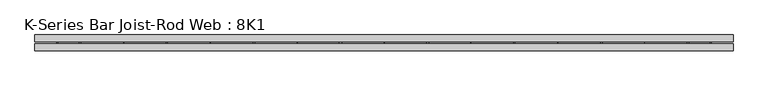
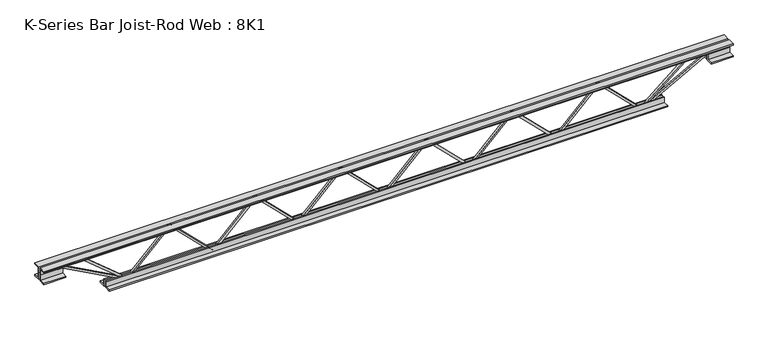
"""IFC4 building model written with IfcOpenShell, lengths in millimetres: beam geometry, K-Series Bar Joist-Rod Web : 8K1."""

from ifc_helpers import new_model, si_unit, frame, origin, place, context, project, spatial, polyline, outline, extrude, source, transform, mapped, element, save


def k_series_bar_joist_rod_web_8k1_e624906a(model_context):
    return source(origin(), model_context, "Body", "SweptSolid", [
        extrude(outline(polyline([(-90.4875, 398.8522061), (-100.0125, 398.8522061), (-100.0125, 403.981188), (90.4875, 597.057291), (90.4875, 599.4993272), (-100.0125, 792.5754302), (-100.0125, 797.7044121), (-90.4875, 797.7044121), (-90.4875, 796.483394), (100.0125, 603.407291), (100.0125, 593.1493272), (-90.4875, 400.0732241), (-90.4875, 398.8522061)])), frame((0.0, -4.7625, 0.0), z_axis=(0.0, 1.0, 0.0), x_axis=(0.0, 0.0, 1.0)), (0.0, 0.0, 1.0), 9.525),
        extrude(outline(polyline([(-90.4875, 0.0), (-100.0125, 0.0), (-100.0125, 5.1289819), (90.4875, 198.205085), (90.4875, 200.6471211), (-100.0125, 393.7232241), (-100.0125, 398.8522061), (-90.4875, 398.8522061), (-90.4875, 397.631188), (100.0125, 204.555085), (100.0125, 194.2971211), (-90.4875, 1.2210181), (-90.4875, 0.0)])), frame((0.0, -4.7625, 0.0), z_axis=(0.0, 1.0, 0.0), x_axis=(0.0, 0.0, 1.0)), (0.0, 0.0, 1.0), 9.525),
        extrude(outline(polyline([(-90.4875, -398.8522061), (-100.0125, -398.8522061), (-100.0125, -393.7232241), (90.4875, -200.6471211), (90.4875, -198.205085), (-100.0125, -5.1289819), (-100.0125, 0.0), (-90.4875, 0.0), (-90.4875, -1.2210181), (100.0125, -194.2971211), (100.0125, -204.555085), (-90.4875, -397.631188), (-90.4875, -398.8522061)])), frame((0.0, -4.7625, 0.0), z_axis=(0.0, 1.0, 0.0), x_axis=(0.0, 0.0, 1.0)), (0.0, 0.0, 1.0), 9.525),
        extrude(outline(polyline([(-90.4875, -797.7044121), (-100.0125, -797.7044121), (-100.0125, -792.5754302), (90.4875, -599.4993272), (90.4875, -597.057291), (-100.0125, -403.981188), (-100.0125, -398.8522061), (-90.4875, -398.8522061), (-90.4875, -400.0732241), (100.0125, -593.1493272), (100.0125, -603.407291), (-90.4875, -796.483394), (-90.4875, -797.7044121)])), frame((0.0, -4.7625, 0.0), z_axis=(0.0, 1.0, 0.0), x_axis=(0.0, 0.0, 1.0)), (0.0, 0.0, 1.0), 9.525),
        extrude(outline(polyline([(-90.4875, 797.7044121), (-100.0125, 797.7044121), (-100.0125, 802.833394), (90.4875, 995.9094971), (90.4875, 998.3515332), (-100.0125, 1191.4276362), (-100.0125, 1196.5566182), (-90.4875, 1196.5566182), (-90.4875, 1195.3356001), (100.0125, 1002.2594971), (100.0125, 992.0015332), (-90.4875, 798.9254302), (-90.4875, 797.7044121)])), frame((0.0, -4.7625, 0.0), z_axis=(0.0, 1.0, 0.0), x_axis=(0.0, 0.0, 1.0)), (0.0, 0.0, 1.0), 9.525),
        extrude(outline(polyline([(-90.4875, -1196.5566182), (-100.0125, -1196.5566182), (-100.0125, -1191.4276362), (90.4875, -998.3515332), (90.4875, -995.9094971), (-100.0125, -802.833394), (-100.0125, -797.7044121), (-90.4875, -797.7044121), (-90.4875, -798.9254302), (100.0125, -992.0015332), (100.0125, -1002.2594971), (-90.4875, -1195.3356001), (-90.4875, -1196.5566182)])), frame((0.0, -4.7625, 0.0), z_axis=(0.0, 1.0, 0.0), x_axis=(0.0, 0.0, 1.0)), (0.0, 0.0, 1.0), 9.525),
        extrude(outline(polyline([(4.7625, 101.6), (36.5125, 101.6), (36.5125, 95.25), (11.1125, 95.25), (11.1125, 69.85), (4.7625, 69.85), (4.7625, 101.6)])), frame((-1602.9566182, 0.0, 0.0), z_axis=(1.0, 0.0, 0.0), x_axis=(0.0, 1.0, 0.0)), (0.0, 0.0, 1.0), 3205.9132363),
        extrude(outline(polyline([(-4.7625, 101.6), (-4.7625, 69.85), (-11.1125, 69.85), (-11.1125, 95.25), (-36.5125, 95.25), (-36.5125, 101.6), (-4.7625, 101.6)])), frame((-1602.9566182, 0.0, 0.0), z_axis=(1.0, 0.0, 0.0), x_axis=(0.0, 1.0, 0.0)), (0.0, 0.0, 1.0), 3205.9132363),
        extrude(outline(polyline([(-4.7625, 38.1), (-36.5125, 38.1), (-36.5125, 44.45), (-11.1125, 44.45), (-11.1125, 69.85), (-4.7625, 69.85), (-4.7625, 38.1)])), frame((-1602.9566182, 0.0, 0.0), z_axis=(1.0, 0.0, 0.0), x_axis=(0.0, 1.0, 0.0)), (0.0, 0.0, 1.0), 101.6),
        extrude(outline(polyline([(36.5125, 38.1), (4.7625, 38.1), (4.7625, 69.85), (11.1125, 69.85), (11.1125, 44.45), (36.5125, 44.45), (36.5125, 38.1)])), frame((-1602.9566182, 0.0, 0.0), z_axis=(1.0, 0.0, 0.0), x_axis=(0.0, 1.0, 0.0)), (0.0, 0.0, 1.0), 101.6),
        extrude(outline(polyline([(4.7625, 38.1), (4.7625, 69.85), (11.1125, 69.85), (11.1125, 44.45), (36.5125, 44.45), (36.5125, 38.1), (4.7625, 38.1)])), frame((1501.3566182, 0.0, 0.0), z_axis=(1.0, 0.0, 0.0), x_axis=(0.0, 1.0, 0.0)), (0.0, 0.0, 1.0), 101.6),
        extrude(outline(polyline([(-4.7625, 38.1), (-36.5125, 38.1), (-36.5125, 44.45), (-11.1125, 44.45), (-11.1125, 69.85), (-4.7625, 69.85), (-4.7625, 38.1)])), frame((1501.3566182, 0.0, 0.0), z_axis=(1.0, 0.0, 0.0), x_axis=(0.0, 1.0, 0.0)), (0.0, 0.0, 1.0), 101.6),
        extrude(outline(polyline([(4.7625, -101.6), (4.7625, -69.85), (11.1125, -69.85), (11.1125, -95.25), (36.5125, -95.25), (36.5125, -101.6), (4.7625, -101.6)])), frame((-1298.1566182, 0.0, 0.0), z_axis=(1.0, 0.0, 0.0), x_axis=(0.0, 1.0, 0.0)), (0.0, 0.0, 1.0), 2596.3132363),
        extrude(outline(polyline([(-4.7625, -101.6), (-36.5125, -101.6), (-36.5125, -95.25), (-11.1125, -95.25), (-11.1125, -69.85), (-4.7625, -69.85), (-4.7625, -101.6)])), frame((-1298.1566182, 0.0, 0.0), z_axis=(1.0, 0.0, 0.0), x_axis=(0.0, 1.0, 0.0)), (0.0, 0.0, 1.0), 2596.3132363),
        extrude(outline(polyline([(0.0, -9.525), (0.0, 0.0), (346.6425392, 0.0), (346.6425392, -9.525), (0.0, -9.525)])), frame((-1503.6249167, 4.7625, 65.662372), z_axis=(0.4762831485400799, 0.0, 0.8792919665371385), x_axis=(0.8792919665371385, 0.0, -0.4762831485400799)), (0.0, 0.0, 1.0), 9.525),
        extrude(outline(polyline([(0.0, -9.525), (0.0, 0.0), (258.8991706, 0.0), (258.8991706, -9.525), (0.0, -9.525)])), frame((-1399.0197674, 4.7625, 66.1815185), z_axis=(0.6376999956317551, 0.0, 0.7702848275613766), x_axis=(0.7702848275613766, 0.0, -0.6376999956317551)), (0.0, 0.0, 1.0), 9.525),
        extrude(outline(polyline([(0.0, -9.525), (0.0, 0.0), (346.6425392, 0.0), (346.6425392, -9.525), (0.0, -9.525)])), frame((1503.6249167, -4.7625, 65.662372), z_axis=(-0.47628314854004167, 0.0, 0.8792919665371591), x_axis=(-0.8792919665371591, 0.0, -0.47628314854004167)), (0.0, 0.0, 1.0), 9.525),
        extrude(outline(polyline([(0.0, -9.525), (0.0, 0.0), (258.8991706, 0.0), (258.8991706, -9.525), (0.0, -9.525)])), frame((1399.0197674, -4.7625, 66.1815185), z_axis=(-0.6376999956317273, 0.0, 0.7702848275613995), x_axis=(-0.7702848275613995, 0.0, -0.6376999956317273)), (0.0, 0.0, 1.0), 9.525),
    ])


if __name__ == "__main__":
    model = new_model("IFC4")
    model_context = context("Model", 3, world=origin())
    ifc_project = project(units=[si_unit("LENGTHUNIT", "METRE", prefix="MILLI")], contexts=[model_context])
    site = spatial("IfcSite", under=ifc_project)
    building = spatial("IfcBuilding", under=site)
    placement = place(None, origin())
    k_series_bar_joist_rod_web_8k1_shape = k_series_bar_joist_rod_web_8k1_e624906a(model_context)
    element("IfcBeam", 1, ObjectType="K-Series Bar Joist-Rod Web : 8K1", at=placement, inside=building, context=model_context, shape_type="MappedRepresentation", body=[
        mapped(k_series_bar_joist_rod_web_8k1_shape, transform((0.0, 0.0, 0.0), x_axis=(1.0, 0.0, 0.0), y_axis=(0.0, 1.0, 0.0), z_axis=(0.0, 0.0, 1.0))),
    ])
    save(model, "model.ifc")
